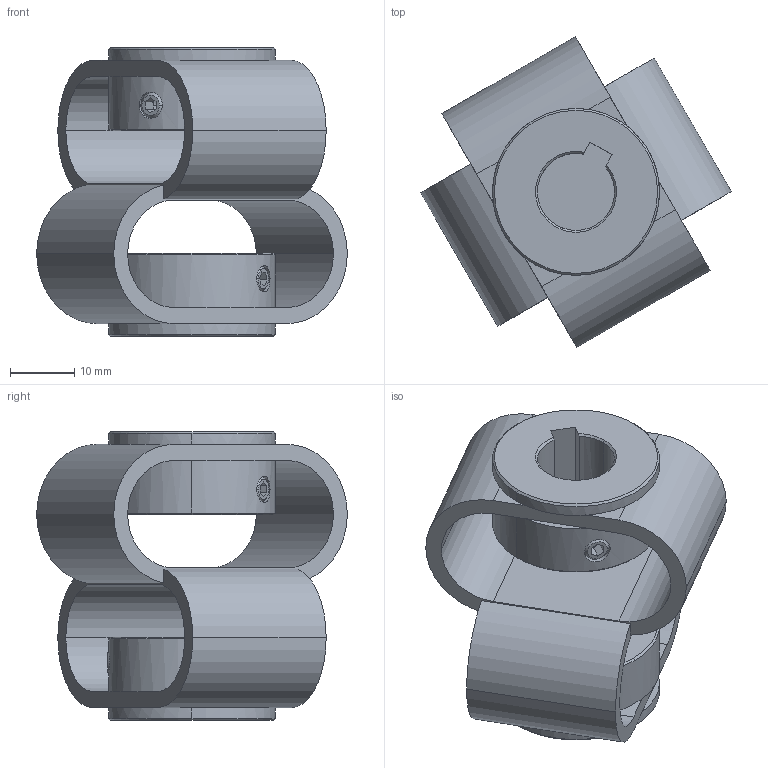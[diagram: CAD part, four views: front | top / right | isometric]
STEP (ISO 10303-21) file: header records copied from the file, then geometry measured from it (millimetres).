
FILE_DESCRIPTION (( 'STEP AP214' ), '1' );
FILE_NAME ('275084_8.0000.1L01.1112_Doppelschlaufenkupplung~0.STEP', '2018-03-01T06:04:23', ( '' ), ( '' ), 'SwSTEP 2.0', 'SolidWorks 2017', '' );
FILE_SCHEMA (( 'AUTOMOTIVE_DESIGN' ));
Length unit declared in the file: millimetre
Products named in the file (1): 275084_8.0000.1L01.1112_Doppelschlaufenkupplung~0
Bounding box: 48.37 x 48.37 x 45 mm (x, y, z)
Volume: 18820.5 mm3; surface area: 12994.1 mm2
Topology: 7 solids, 7 shells, 202 faces, 482 edges, 280 vertices
Faces by surface type: plane 100, cone 52, cylinder 50
Entity records: 8544 total; most frequent: CARTESIAN_POINT 1547, DIRECTION 1028, ORIENTED_EDGE 932, EDGE_CURVE 466, AXIS2_PLACEMENT_3D 393, VERTEX_POINT 280, VECTOR 242, LINE 242
